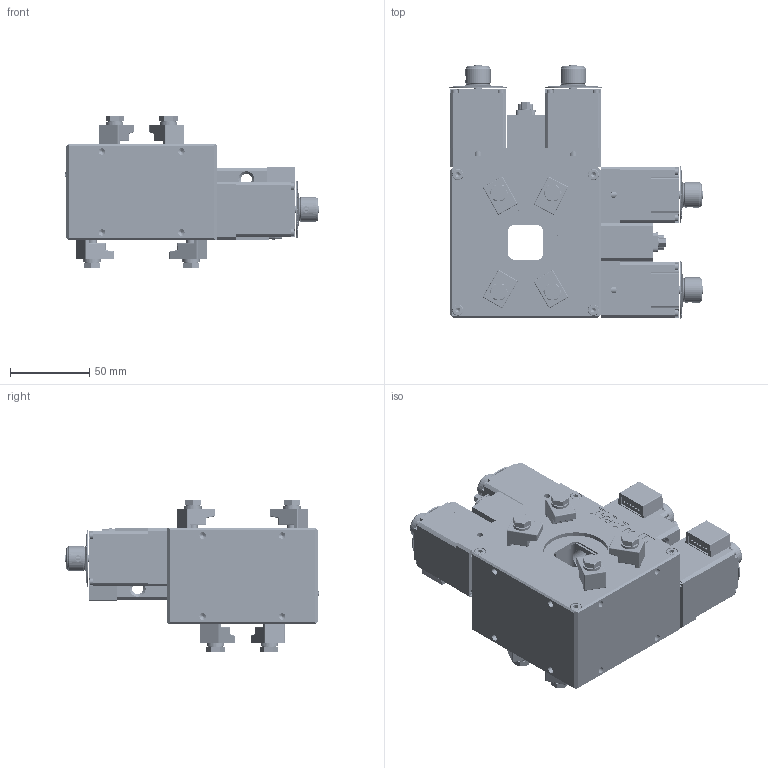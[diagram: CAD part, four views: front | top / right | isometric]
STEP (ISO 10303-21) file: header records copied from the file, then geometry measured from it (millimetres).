
FILE_DESCRIPTION(/* description */ (''),/* implementation_level */ '2;1');
FILE_NAME(/* name */ 'C:\WF\Designs\Slitter\IBC22-HV\Step\IB-C22-HV.stp',/* time_stamp */ '2018-05-04T14:57:04+02:00',/* author */ ('Henning'),/* organization */ ('JJ X-RAY A/S'),/* preprocessor_version */ 'ST-DEVELOPER v16.13',/* originating_system */ 'Autodesk Inventor 2018',/* authorisation */ '');
FILE_SCHEMA (('AUTOMOTIVE_DESIGN { 1 0 10303 214 3 1 1 }'));
Products named in the file (27): IB-C22-HV Slit for step_1; 11031001 for step_1; 11031011; O-ring 16_2; DBConnector; ISO 7045 - M2 x 5 - 4.8 - H; 11031002 for step_1; 11031024; O-ring 16_2_1; D-SUB Connector 15 pins Male; nr. 453-886; Skalaknap-A; skalaknap del3; skalaknap; skalaknap del2; skalaknap del1; DIN 912 - M2,5 x 10; 16012020; pkp233-b; DIN 912  M3 x 35; SW3DPS-Fischer_DEE_DEU_102_A059-130-DEFAULT; møtrik; ISO 4762 - M4 x 35; KF Claw grip PF 104000-T; PF104000-T; ISO 4017 - M6 x 20; ISO 7092 - ST 6 - 140 HV
Assembly tree (64 placements, depth 4):
  IB-C22-HV Slit for step_1
    11031001 for step_1
      11031011
      O-ring 16_2  x2
      DBConnector
      DIN 912 - M2,5 x 10  x4
      DIN 912  M3 x 35  x4
      nr. 453-886  x2
      ISO 7045 - M2 x 5 - 4.8 - H
      Skalaknap-A  x2
        skalaknap del3
        skalaknap
        skalaknap del2
        skalaknap del1
      16012020
      pkp233-b  x2
      SW3DPS-Fischer_DEE_DEU_102_A059-130-DEFAULT
      møtrik
    11031002 for step_1
      11031024
      O-ring 16_2_1  x2
      D-SUB Connector 15 pins Male
      DIN 912 - M2,5 x 10  x4
      DIN 912  M3 x 35  x4
      nr. 453-886  x2
      Skalaknap-A  x2
        skalaknap del3
        skalaknap
        skalaknap del2
        skalaknap del1
      16012020
      pkp233-b  x2
      SW3DPS-Fischer_DEE_DEU_102_A059-130-DEFAULT
      møtrik
    ISO 4762 - M4 x 35  x4
    KF Claw grip PF 104000-T  x8
      PF104000-T
      ISO 4017 - M6 x 20
      ISO 7092 - ST 6 - 140 HV
Bounding box: 159.5 x 159.5 x 96.2 mm (x, y, z)
Volume: 562758.3 mm3; surface area: 211805.9 mm2
Topology: 87 solids, 87 shells, 7827 faces, 20845 edges, 13668 vertices
Faces by surface type: plane 4136, bspline 1674, cylinder 1398, cone 372, sphere 127, torus 120
Full cylindrical faces by diameter (mm): 0.48 x18, 0.58 x14, 0.6 x18, 0.8 x18, 0.97 x18, 0.991 x30, 1 x24, 1.1 x18, 1.2 x2, 1.567 x36, 1.783 x1, 2 x1, 2.156 x4, 2.459 x36, 2.487 x4, 2.5 x8, 2.82 x4, 3 x16, 3.048 x4, 3.242 x4, 3.5 x8, 4 x16, 4.134 x8, 4.2 x4, 4.4 x16, 4.5 x8, 4.75 x2, 4.8 x2, 4.917 x8, 5 x28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
Entity records: 121235 total; most frequent: CARTESIAN_POINT 42482, ORIENTED_EDGE 16674, DIRECTION 13783, EDGE_CURVE 8337, VERTEX_POINT 5686, LINE 5095, VECTOR 5095, AXIS2_PLACEMENT_3D 4344
